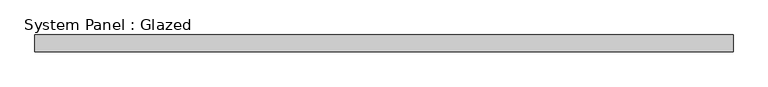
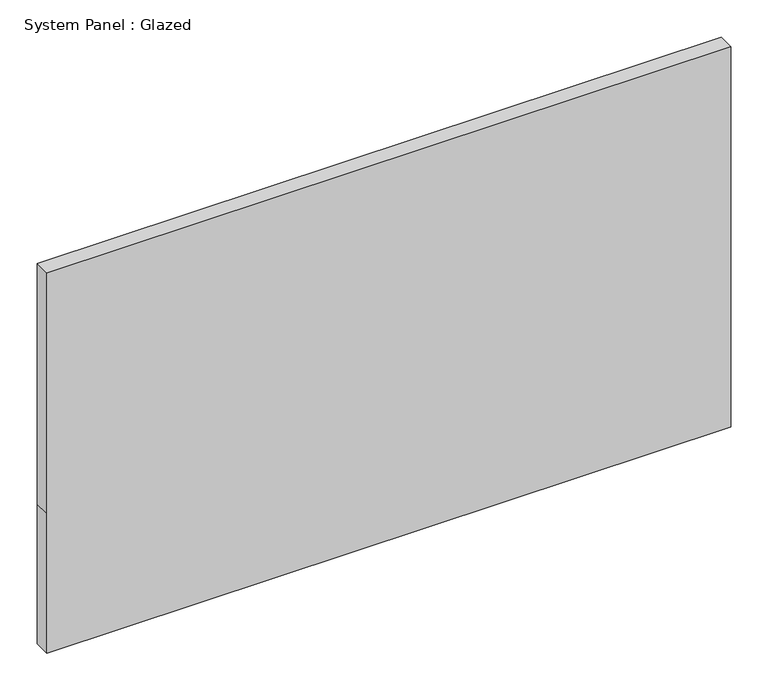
"""IFC4 building model written with IfcOpenShell, lengths in millimetres: plate geometry, System Panel : Glazed."""

from ifc_helpers import new_model, si_unit, frame, origin, place, context, project, spatial, polyline, outline, extrude, source, transform, mapped, element, save


def system_panel_glazed_ca1059b5(model_context):
    return source(origin(), model_context, "Body", "SweptSolid", [
        extrude(outline(polyline([(0.0, -528.8642858), (0.0, 528.8642858), (228.6, 528.8642858), (622.3, 528.8642858), (622.3, -528.8642858), (228.6, -528.8642858), (0.0, -528.8642858)])), frame((0.0, 19.05, 0.0), z_axis=(0.0, 1.0, 0.0), x_axis=(0.0, 0.0, 1.0)), (0.0, 0.0, 1.0), 25.4),
    ])


if __name__ == "__main__":
    model = new_model("IFC4")
    model_context = context("Model", 3, world=origin())
    ifc_project = project(units=[si_unit("LENGTHUNIT", "METRE", prefix="MILLI")], contexts=[model_context])
    site = spatial("IfcSite", under=ifc_project)
    building = spatial("IfcBuilding", under=site)
    placement = place(None, origin())
    system_panel_glazed_shape = system_panel_glazed_ca1059b5(model_context)
    element("IfcPlate", 1, ObjectType="System Panel : Glazed", at=placement, inside=building, context=model_context, shape_type="MappedRepresentation", body=[
        mapped(system_panel_glazed_shape, transform((0.0, 0.0, 0.0), x_axis=(1.0, 0.0, 0.0), y_axis=(0.0, 1.0, 0.0), z_axis=(0.0, 0.0, 1.0))),
    ])
    save(model, "model.ifc")
